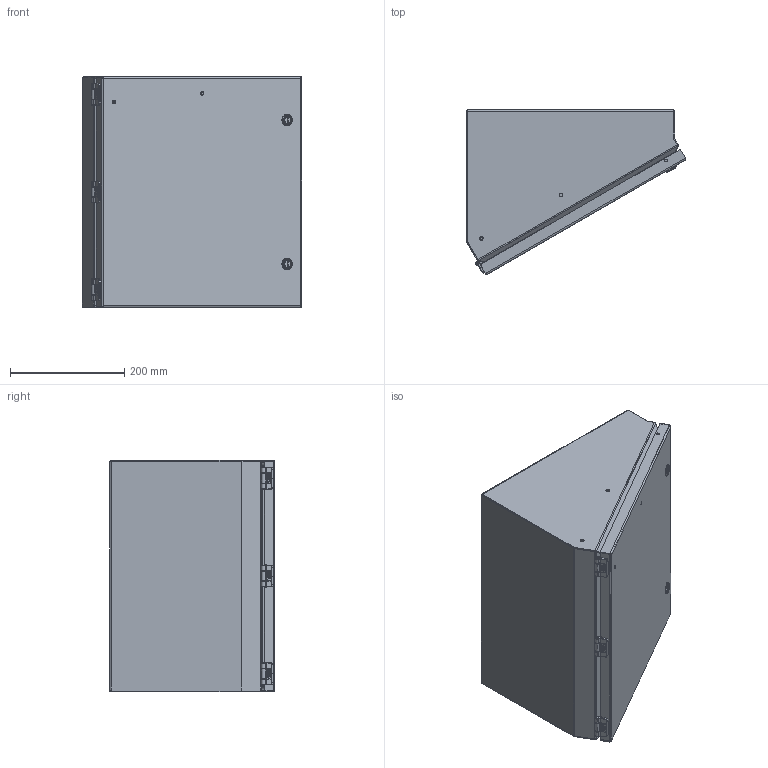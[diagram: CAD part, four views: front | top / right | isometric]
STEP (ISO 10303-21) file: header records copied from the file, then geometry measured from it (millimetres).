
FILE_DESCRIPTION((''),'2;1');
FILE_NAME('MODEL-340_ASM','2025-08-15T10:13:11',('mikek'),('SAGINAW CONTROL & ENGINEERING'),'CREO PARAMETRIC BY PTC INC, 2021284','CREO PARAMETRIC BY PTC INC, 2021284','');
FILE_SCHEMA(('AUTOMOTIVE_DESIGN { 1 0 10303 214 1 1 1 1 }'));
Length unit declared in the file: inch
Products named in the file (25): MODEL-340-BDY; 112643-BOX-LEAF; 112643-BOX-LEAF-STUD; 112643-BOX_ASM; 112643-DOOR-LEAF; 112643-DOOR-LEAF-STUD; 112643-DOOR_ASM; 112643-PIN; 112643_ASM; 113152; MODEL-340-DR; 100063; 112987_SHAFT; 112987_SCREW; 112987_CAM; 112987_INSERT; 112987_NUT; 112987_ASM; MODEL-340-GSKT; 100009; 122189; SUBPANEL; 102479; SUBPANEL-SUBASSEMBLY_ASM; MODEL-340_ASM
Assembly tree (41 placements, depth 4):
  MODEL-340_ASM
    MODEL-340-BDY
    112643_ASM  x3
      112643-BOX_ASM
        112643-BOX-LEAF
        112643-BOX-LEAF-STUD
      112643-DOOR_ASM
        112643-DOOR-LEAF
        112643-DOOR-LEAF-STUD
      112643-PIN
    113152  x6
    MODEL-340-DR
    100063  x4
    112987_ASM  x2
      112987_SHAFT
      112987_SCREW
      112987_CAM
      112987_INSERT
      112987_NUT
    MODEL-340-GSKT
    100009  x4
    122189
    SUBPANEL-SUBASSEMBLY_ASM
      SUBPANEL
      102479  x4
Bounding box: 384.29 x 289.06 x 406.5 mm (x, y, z)
Volume: 1300546.4 mm3; surface area: 1607252.4 mm2
Topology: 47 solids, 50 shells, 4731 faces, 12124 edges, 7464 vertices
Faces by surface type: plane 1464, cylinder 1298, bspline 1176, cone 615, torus 166, sphere 12
Entity records: 118825 total; most frequent: CARTESIAN_POINT 62377, ORIENTED_EDGE 8282, DIRECTION 6913, PRESENTATION_STYLE_ASSIGNMENT 4697, STYLED_ITEM 4687, CURVE_STYLE 4141, EDGE_CURVE 4141, AXIS2_PLACEMENT_3D 2617
